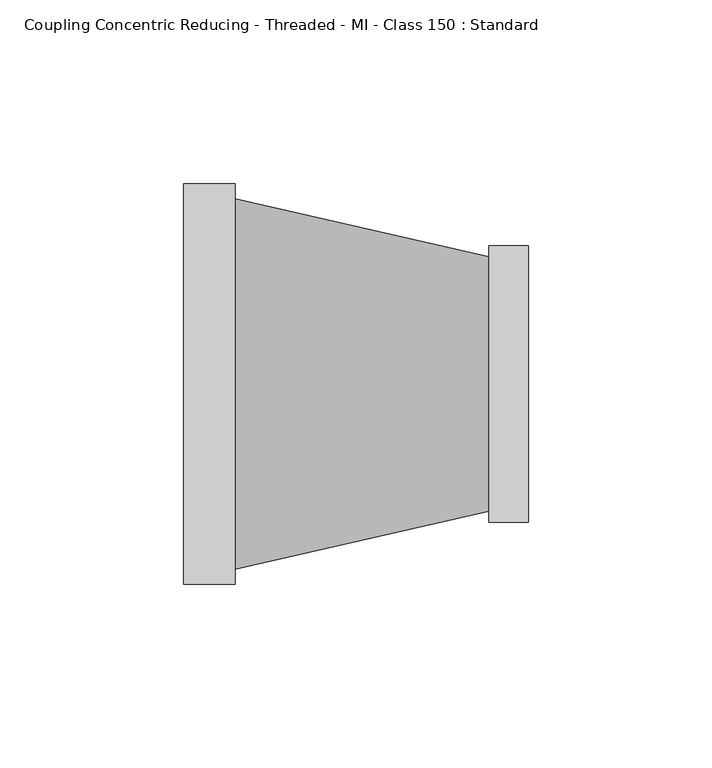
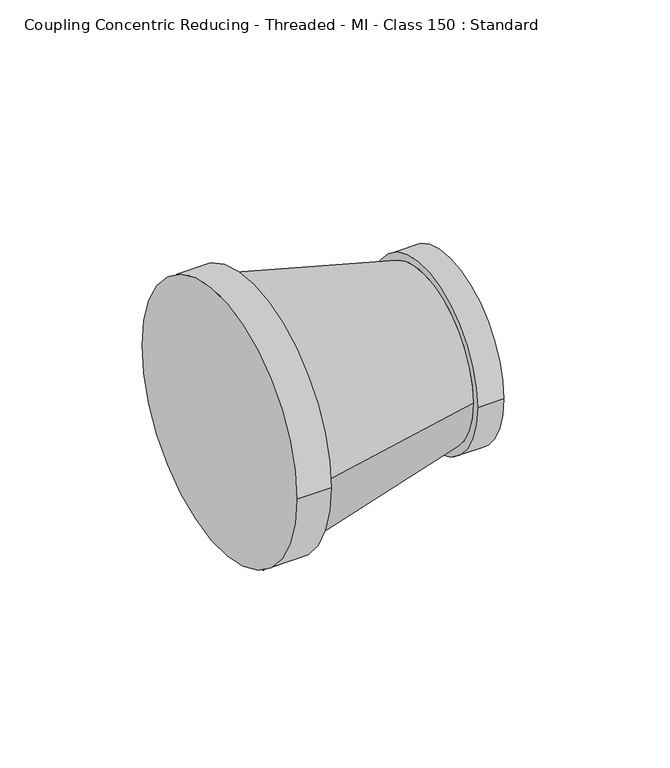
"""IFC4 building model written with IfcOpenShell, lengths in millimetres: pipe fitting geometry, Coupling Concentric Reducing - Threaded - MI - Class 150 : Standard."""

from ifc_helpers import new_model, si_unit, frame, origin, place, context, project, spatial, polyline, circle_curve, source, transform, mapped, element, save
from ifc_brep_helpers import plane_surface, cylinder_surface, revolved_surface, advanced_brep


def coupling_concentric_reducing_threaded_mi_class_150_standard_510ae21c(model_context):
    return source(origin(), model_context, "Body", "AdvancedBrep", [
        advanced_brep(
        [(13.9, -50.32, 0.0), (13.9, 50.32, 0.0), (83.0, 34.54, 0.0), (83.0, -34.54, 0.0), (93.7, 37.65, 0.0), (93.7, -37.65, 0.0), (83.0, 37.65, 0.0), (83.0, -37.65, 0.0), (13.9, 54.4, 0.0), (13.9, -54.4, 0.0), (0.0, 54.4, 0.0), (0.0, -54.4, 0.0)],
        [
            (0, 1, circle_curve(frame((13.9, 0.0, 0.0), z_axis=(1.0, 0.0, 0.0), x_axis=(0.0, 1.0, 0.0)), 50.32)),
            (1, 2),
            (2, 3, circle_curve(frame((83.0, 0.0, 0.0), z_axis=(-1.0, 0.0, 0.0), x_axis=(0.0, 1.0, 0.0)), 34.54)),
            (3, 0),
            (3, 2, circle_curve(frame((83.0, 0.0, 0.0), z_axis=(-1.0, 0.0, 0.0), x_axis=(0.0, -1.0, 0.0)), 34.54)),
            (1, 0, circle_curve(frame((13.9, 0.0, 0.0), z_axis=(1.0, 0.0, 0.0), x_axis=(0.0, -1.0, 0.0)), 50.32)),
            (4, 5, circle_curve(frame((93.7, 0.0, 0.0), z_axis=(1.0, 0.0, 0.0), x_axis=(0.0, -1.0, 0.0)), 37.65)),
            (5, 4, circle_curve(frame((93.7, 0.0, 0.0), z_axis=(1.0, 0.0, 0.0), x_axis=(0.0, -1.0, 0.0)), 37.65)),
            (6, 7, circle_curve(frame((83.0, 0.0, 0.0), z_axis=(-1.0, 0.0, 0.0), x_axis=(0.0, -1.0, 0.0)), 37.65)),
            (7, 6, circle_curve(frame((83.0, 0.0, 0.0), z_axis=(-1.0, 0.0, 0.0), x_axis=(0.0, -1.0, 0.0)), 37.65)),
            (5, 7),
            (6, 4),
            (8, 9, circle_curve(frame((13.9, 0.0, 0.0), z_axis=(1.0, 0.0, 0.0), x_axis=(0.0, -1.0, 0.0)), 54.4)),
            (9, 8, circle_curve(frame((13.9, 0.0, 0.0), z_axis=(1.0, 0.0, 0.0), x_axis=(0.0, -1.0, 0.0)), 54.4)),
            (10, 11, circle_curve(frame((0.0, 0.0, 0.0), z_axis=(-1.0, 0.0, 0.0), x_axis=(0.0, -1.0, 0.0)), 54.4)),
            (11, 10, circle_curve(frame((0.0, 0.0, 0.0), z_axis=(-1.0, 0.0, 0.0), x_axis=(0.0, -1.0, 0.0)), 54.4)),
            (9, 11),
            (10, 8),
        ],
        [
            revolved_surface(polyline([(83.0, -34.5399999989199, 0.0), (13.900000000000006, -50.32, 0.0)]), (234.2493029, 0.0, 0.0), (-1.0, 0.0, 0.0)),
            revolved_surface(polyline([(83.0, 34.5399999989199, 0.0), (13.900000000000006, 50.32, 0.0)]), (234.2493029, 0.0, 0.0), (-1.0, 0.0, 0.0)),
            plane_surface(frame((93.7, -37.65, 0.0), z_axis=(1.0, 0.0, 0.0), x_axis=(0.0, 0.0, 1.0))),
            plane_surface(frame((83.0, -37.65, 0.0), z_axis=(-1.0, 0.0, 0.0), x_axis=(0.0, 0.0, -1.0))),
            cylinder_surface(frame((83.0, 0.0, 0.0), z_axis=(1.0, 0.0, 0.0), x_axis=(0.0, -1.0, 0.0)), 37.65),
            plane_surface(frame((13.9, -54.4, 0.0), z_axis=(1.0, 0.0, 0.0), x_axis=(0.0, 0.0, 1.0))),
            plane_surface(frame((0.0, -54.4, 0.0), z_axis=(-1.0, 0.0, 0.0), x_axis=(0.0, 0.0, -1.0))),
            cylinder_surface(frame((0.0, 0.0, 0.0), z_axis=(1.0, 0.0, 0.0), x_axis=(0.0, -1.0, 0.0)), 54.4),
        ],
        [
            (0, [[1, 2, 3, 4]]),
            (1, [[5, -2, 6, -4]]),
            (2, [[7, 8]]),
            (3, [[9, 10], [-5, -3]]),
            (4, [[11, -9, 12, -8]]),
            (4, [[-12, -10, -11, -7]]),
            (5, [[13, 14], [-6, -1]]),
            (6, [[15, 16]]),
            (7, [[17, -15, 18, -14]]),
            (7, [[-18, -16, -17, -13]]),
        ],
    ),
    ])


if __name__ == "__main__":
    model = new_model("IFC4")
    model_context = context("Model", 3, world=origin())
    ifc_project = project(units=[si_unit("LENGTHUNIT", "METRE", prefix="MILLI")], contexts=[model_context])
    site = spatial("IfcSite", under=ifc_project)
    building = spatial("IfcBuilding", under=site)
    placement = place(None, origin())
    coupling_concentric_reducing_threaded_mi_class_150_standard_shape = coupling_concentric_reducing_threaded_mi_class_150_standard_510ae21c(model_context)
    element("IfcPipeFitting", 1, ObjectType="Coupling Concentric Reducing - Threaded - MI - Class 150 : Standard", at=placement, inside=building, context=model_context, shape_type="MappedRepresentation", body=[
        mapped(coupling_concentric_reducing_threaded_mi_class_150_standard_shape, transform((0.0, 0.0, 0.0), x_axis=(1.0, 0.0, 0.0), y_axis=(0.0, 1.0, 0.0), z_axis=(0.0, 0.0, 1.0))),
    ])
    save(model, "model.ifc")
